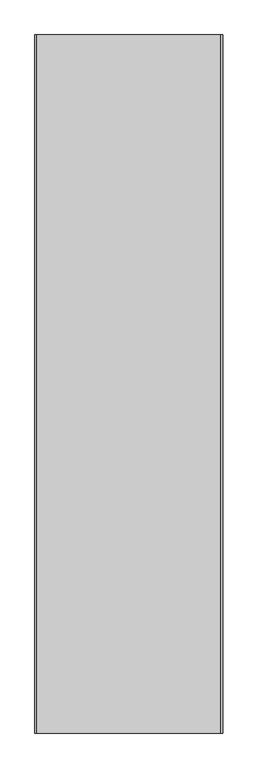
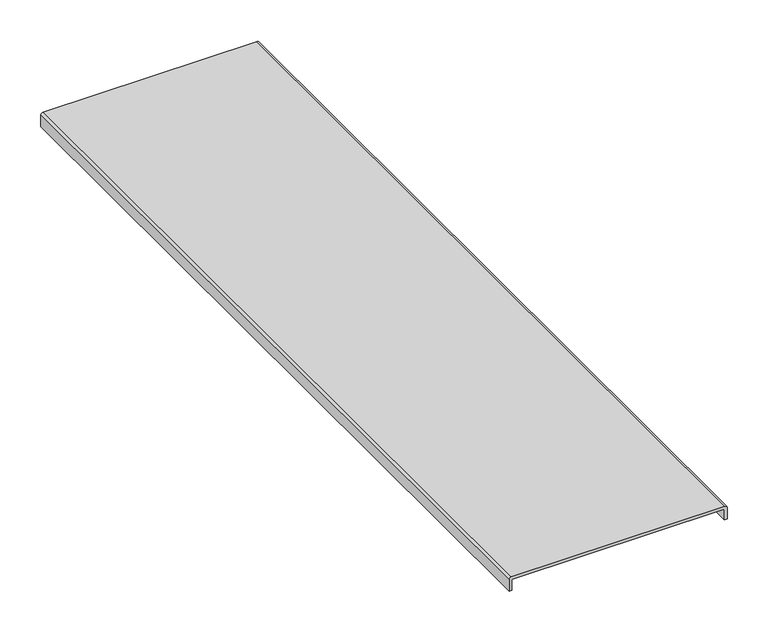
"""IFC4 building model written with IfcOpenShell, lengths in millimetres: proxy geometry, Cable_Tray_Cover_TWT_Basorcanal : Basorcanal TWT 300."""

from ifc_helpers import new_model, si_unit, point, frame, frame_2d, origin, place, context, project, spatial, polyline, circle_curve, trimmed, segment, composite_curve, outline, extrude, source, transform, mapped, element, save


def generic_models_c6466a9b(model_context):
    return source(origin(), model_context, "Body", "SweptSolid", [
        extrude(outline(composite_curve([segment(trimmed(circle_curve(frame_2d((-0.5, -149.5)), 0.5), [point((-0.5, -150.0))], [point((0.0, -149.5))], True, "CARTESIAN"), True, "CONTINUOUS"), segment(polyline([(0.0, -149.5), (0.0, 149.5)]), True, "CONTINUOUS"), segment(trimmed(circle_curve(frame_2d((-0.5, 149.5)), 0.5), [point((0.0, 149.5))], [point((-0.5, 150.0))], True, "CARTESIAN"), True, "CONTINUOUS"), segment(polyline([(-0.5, 150.0), (-16.0, 150.0), (-16.0, 154.0), (0.9268922, 154.0)]), True, "CONTINUOUS"), segment(trimmed(circle_curve(frame_2d((0.9268922, 150.9268922)), 3.0731078), [point((0.9268922, 154.0))], [point((4.0, 150.9268922))], False, "CARTESIAN"), True, "CONTINUOUS"), segment(polyline([(4.0, 150.9268922), (4.0, -150.6770801)]), True, "CONTINUOUS"), segment(trimmed(circle_curve(frame_2d((0.6770801, -150.6770801)), 3.3229199), [point((4.0, -150.6770801))], [point((0.6770801, -154.0))], False, "CARTESIAN"), True, "CONTINUOUS"), segment(polyline([(0.6770801, -154.0), (-16.0, -154.0), (-16.0, -150.0), (-0.5, -150.0)]), True, "CONTINUOUS")], self_intersect=False)), frame((0.0, 0.0, 0.0), z_axis=(0.0, 1.0, 0.0), x_axis=(0.0, 0.0, 1.0)), (0.0, 0.0, 1.0), 1145.0),
    ])


if __name__ == "__main__":
    model = new_model("IFC4")
    model_context = context("Model", 3, world=origin())
    ifc_project = project(units=[si_unit("LENGTHUNIT", "METRE", prefix="MILLI")], contexts=[model_context])
    site = spatial("IfcSite", under=ifc_project)
    building = spatial("IfcBuilding", under=site)
    placement = place(None, origin())
    generic_models_shape = generic_models_c6466a9b(model_context)
    element("IfcBuildingElementProxy", 1, Name="Cable_Tray_Cover_TWT_Basorcanal : Basorcanal TWT 300", ObjectType="Cable_Tray_Cover_TWT_Basorcanal : Basorcanal TWT 300", at=placement, inside=building, context=model_context, shape_type="MappedRepresentation", body=[
        mapped(generic_models_shape, transform((0.0, 0.0, 0.0), x_axis=(1.0, 0.0, 0.0), y_axis=(0.0, 1.0, 0.0), z_axis=(0.0, 0.0, 1.0))),
    ])
    save(model, "model.ifc")
